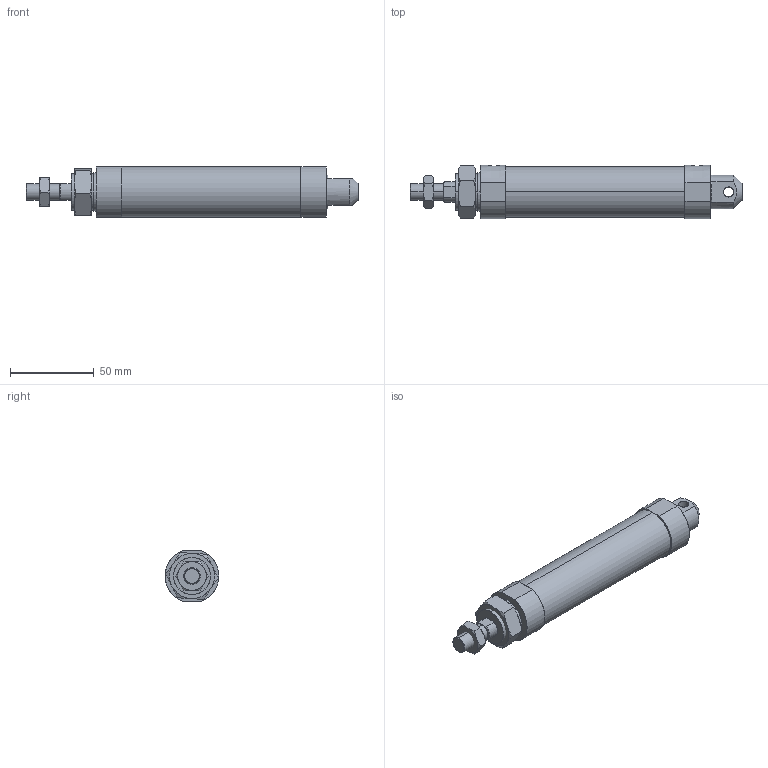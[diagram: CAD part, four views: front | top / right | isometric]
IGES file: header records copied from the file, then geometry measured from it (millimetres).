
Start section: SolidWorks IGES file using analytic representation for surfaces
Global section: file name: C:\Users\Toshiba\Desktop\J#2-25-75-C.IGS; native system: SolidWorks 2014; preprocessor: SolidWorks 2014; author: Toshiba; date: 160308.151258; units: millimetre
Bounding box: 198 x 32 x 30 mm (x, y, z)
Surface area: 21809.8 mm2 (no closed solid volume)
Topology: 0 solids, 0 shells, 96 faces, 1824 edges, 1824 vertices
Faces by surface type: bspline 64, revolution 32
